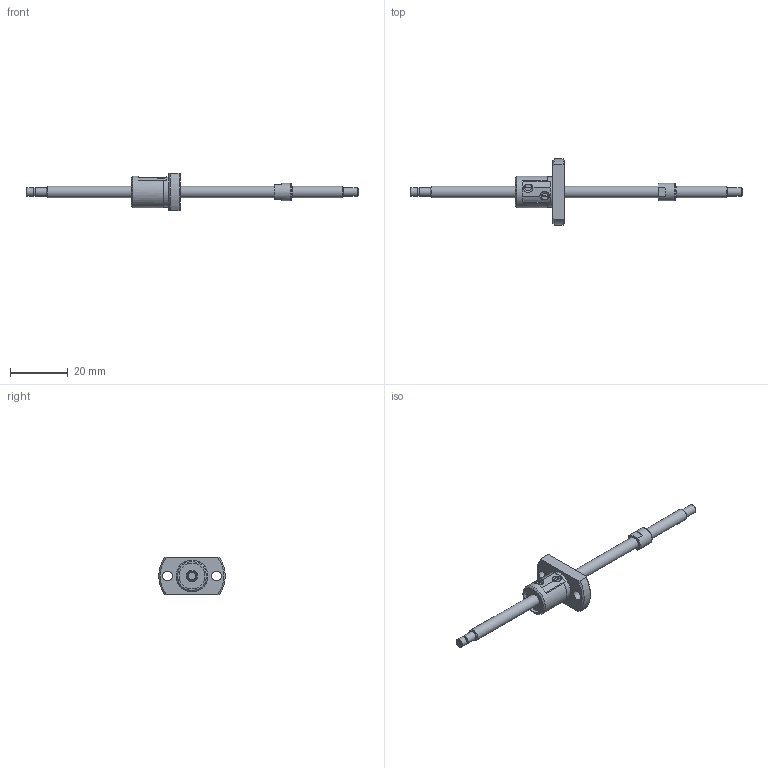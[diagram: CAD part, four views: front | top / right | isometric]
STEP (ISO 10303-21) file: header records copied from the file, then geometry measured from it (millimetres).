
FILE_DESCRIPTION(/* description */ ('STEP AP214'),/* implementation_level */ '2;1');
FILE_NAME(/* name */ 'SG0401-076R115C3B0X(29.5)',/* time_stamp */ '2026-07-20T19:39:21+02:00',/* author */ ('License CC BY-ND 4.0'),/* organization */ ('CADENAS'),/* preprocessor_version */ 'ST-DEVELOPER v20',/* originating_system */ 'PARTsolutions',/* authorisation */ ' ');
FILE_SCHEMA (('AUTOMOTIVE_DESIGN {1 0 10303 214 3 1 1}'));
Length unit declared in the file: millimetre
Products named in the file (3): SG0401-076R115C3B0X(29.5); SG0401-76R115C3B_shaft; SG0401_nut
Assembly tree (2 placements, depth 2):
  SG0401-076R115C3B0X(29.5)
    SG0401-76R115C3B_shaft
    SG0401_nut
Bounding box: 115 x 22.92 x 13 mm (x, y, z)
Volume: 3385.7 mm3; surface area: 3042.9 mm2
Topology: 2 solids, 2 shells, 78 faces, 184 edges, 121 vertices
Faces by surface type: plane 37, cylinder 26, cone 14, torus 1
Full cylindrical faces by diameter (mm): 2.7 x1, 3 x3, 3.4 x2, 4 x3, 6 x1, 9 x2, 10.6 x1, 11 x1
Entity records: 2165 total; most frequent: CARTESIAN_POINT 401, DIRECTION 368, ORIENTED_EDGE 300, AXIS2_PLACEMENT_3D 155, EDGE_CURVE 150, EDGE_LOOP 120, FACE_BOUND 120, VERTEX_POINT 112
